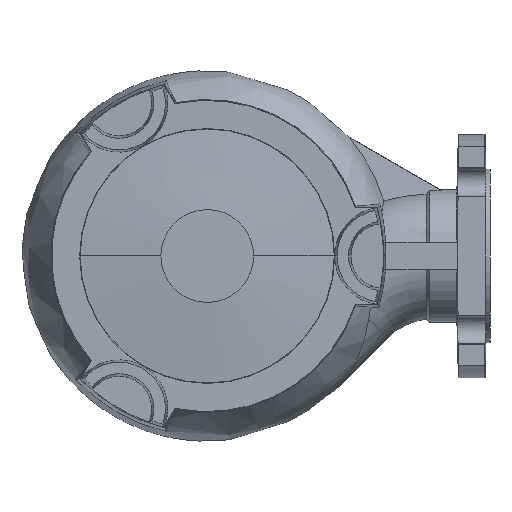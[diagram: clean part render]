
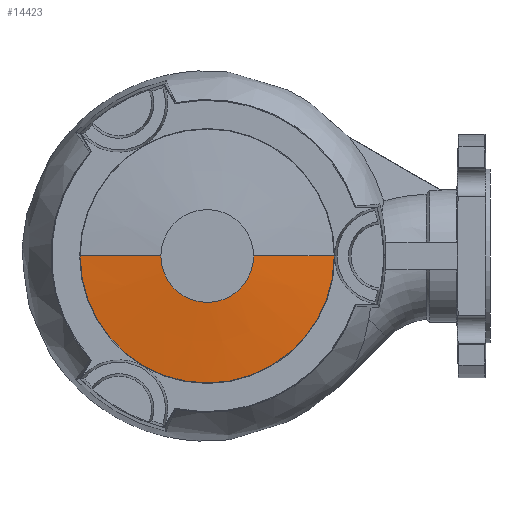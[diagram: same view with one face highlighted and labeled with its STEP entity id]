
A CAD part, front view. The second image highlights one B-rep face of the part: STEP entity #14423.
In plain terms, the highlighted conical face has half-angle 85 degrees and reference radius 20 mm.
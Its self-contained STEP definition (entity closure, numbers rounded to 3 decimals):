
#284 = DIRECTION ( 'NONE',  ( -0.996, 0.087, 0. ) ) ;
#841 = CARTESIAN_POINT ( 'NONE',  ( -20., 12., 0. ) ) ;
#1235 = DIRECTION ( 'NONE',  ( 0.996, 0.087, 0. ) ) ;
#1725 = AXIS2_PLACEMENT_3D ( 'NONE', #10655, #4348, #9160 ) ;
#1944 = CARTESIAN_POINT ( 'NONE',  ( 54.789, 15.044, 0. ) ) ;
#2341 = CARTESIAN_POINT ( 'NONE',  ( -20., 12., 0. ) ) ;
#3078 = AXIS2_PLACEMENT_3D ( 'NONE', #14346, #8359, #7261 ) ;
#3098 = DIRECTION ( 'NONE',  ( 1., 0., 0. ) ) ;
#3624 = LINE ( 'NONE', #6206, #8165 ) ;
#3797 = VERTEX_POINT ( 'NONE', #14858 ) ;
#4007 = CARTESIAN_POINT ( 'NONE',  ( -54.789, 15.044, 0. ) ) ;
#4348 = DIRECTION ( 'NONE',  ( 0., 1., 0. ) ) ;
#4706 = VERTEX_POINT ( 'NONE', #4007 ) ;
#6206 = CARTESIAN_POINT ( 'NONE',  ( 20., 12., 0. ) ) ;
#6246 = EDGE_CURVE ( 'NONE', #3797, #12596, #3624, .T. ) ;
#6569 = EDGE_CURVE ( 'NONE', #12596, #4706, #13390, .T. ) ;
#7088 = ORIENTED_EDGE ( 'NONE', *, *, #6569, .F. ) ;
#7261 = DIRECTION ( 'NONE',  ( 1., 0., 0. ) ) ;
#8165 = VECTOR ( 'NONE', #1235, 1000. ) ;
#8359 = DIRECTION ( 'NONE',  ( 0., 1., 0. ) ) ;
#8699 = ORIENTED_EDGE ( 'NONE', *, *, #6246, .F. ) ;
#8723 = ORIENTED_EDGE ( 'NONE', *, *, #10562, .T. ) ;
#8907 = VERTEX_POINT ( 'NONE', #841 ) ;
#9116 = CONICAL_SURFACE ( 'NONE', #3078, 20., 1.484 ) ;
#9160 = DIRECTION ( 'NONE',  ( 1., 0., 0. ) ) ;
#9538 = FACE_OUTER_BOUND ( 'NONE', #14057, .T. ) ;
#9871 = AXIS2_PLACEMENT_3D ( 'NONE', #10489, #13875, #3098 ) ;
#10489 = CARTESIAN_POINT ( 'NONE',  ( 0., 15.044, 0. ) ) ;
#10562 = EDGE_CURVE ( 'NONE', #3797, #8907, #15321, .T. ) ;
#10655 = CARTESIAN_POINT ( 'NONE',  ( 0., 12., 0. ) ) ;
#11917 = ORIENTED_EDGE ( 'NONE', *, *, #15159, .T. ) ;
#12596 = VERTEX_POINT ( 'NONE', #1944 ) ;
#12897 = VECTOR ( 'NONE', #284, 1000. ) ;
#13121 = LINE ( 'NONE', #2341, #12897 ) ;
#13390 = CIRCLE ( 'NONE', #9871, 54.789 ) ;
#13875 = DIRECTION ( 'NONE',  ( 0., 1., 0. ) ) ;
#14057 = EDGE_LOOP ( 'NONE', ( #8723, #11917, #7088, #8699 ) ) ;
#14346 = CARTESIAN_POINT ( 'NONE',  ( 0., 12., 0. ) ) ;
#14423 = ADVANCED_FACE ( 'NONE', ( #9538 ), #9116, .T. ) ;
#14858 = CARTESIAN_POINT ( 'NONE',  ( 20., 12., 0. ) ) ;
#15159 = EDGE_CURVE ( 'NONE', #8907, #4706, #13121, .T. ) ;
#15321 = CIRCLE ( 'NONE', #1725, 20. ) ;
